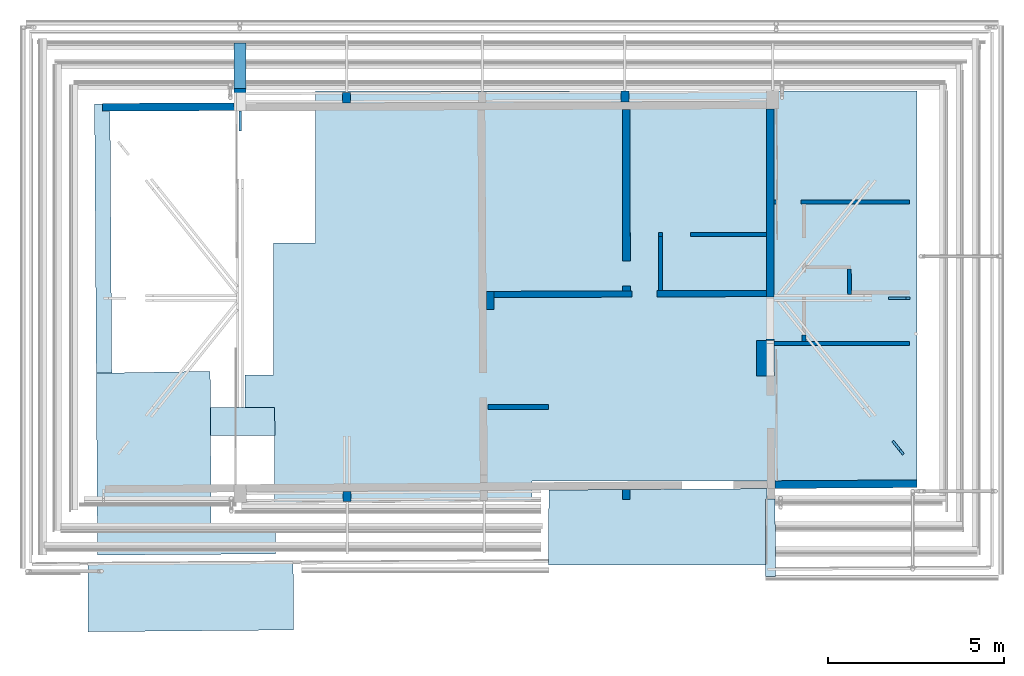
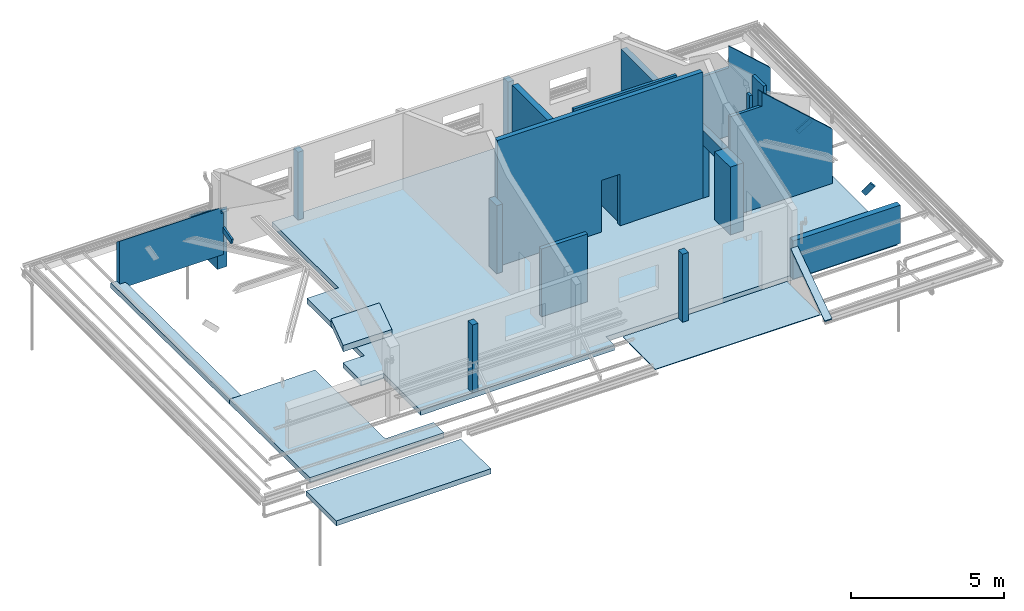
# One storey, part 7 of 15: 19 walls, 7 slabs, 3 beams, 6 openings, 1 element without a shape of its own.
"""IFC2X3 building model written with IfcOpenShell, lengths in centimetres."""

from ifc_helpers import new_model, entity, si_unit, converted_unit, direction, frame, frame_2d, origin, place, context, subcontext, project, spatial, polyline, rectangle, outline, extrude, clip, halfspace, bounded_halfspace, material, layer, layer_set, layer_usage, type_object, element, aggregate, save


model = new_model("IFC2X3")

# Units and contexts
model_context = context("Model", 3, precision=0.001, world=frame((0.0, 0.0, 13090.0)), true_north=direction((6.123233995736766e-17, 1.0)))
body_context = subcontext(model_context, "Body", "Model", "MODEL_VIEW")
ifc_project = project(units=[si_unit("LENGTHUNIT", "METRE", prefix="CENTI"), si_unit("AREAUNIT", "SQUARE_METRE"), si_unit("VOLUMEUNIT", "CUBIC_METRE"), converted_unit("PLANEANGLEUNIT", "DEGREE", entity("IfcPlaneAngleMeasure", 0.017453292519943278), si_unit("PLANEANGLEUNIT", "RADIAN"), dimensions=[0, 0, 0, 0, 0, 0, 0])], contexts=[model_context])

# Site, building, storey
site_placement = place(None, origin())
site = spatial("IfcSite", under=ifc_project, at=site_placement, Name="Default", CompositionType="ELEMENT")
building_placement = place(site_placement, origin())
building = spatial("IfcBuilding", under=site, at=building_placement, Name="e 39 logements et 22 maisons relais", CompositionType="ELEMENT")
storey_placement = place(building_placement, frame((0.0, 0.0, 340.0)))
storey = spatial("IfcBuildingStorey", under=building, at=storey_placement, Name="R+1", CompositionType="ELEMENT", Elevation=339.99999999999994)

# Beams
ifc_material_1 = material(Name="Bois - Bois de construction de dimensions courantes")
beam_type_1 = type_object("IfcBeamType", Name="Poutre - Bois de construction de dimensions courantes:70 220", PredefinedType="BEAM")
beam_1_placement = place(storey_placement, frame((-912.5294746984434, 290.23751580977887, 33.20291757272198), z_axis=(0.0, -0.2524683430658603, 0.9676051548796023), x_axis=(0.0, 0.9676051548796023, 0.2524683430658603)))
element("IfcBeam", 1, at=beam_1_placement, inside=storey, type_object=beam_type_1, material=ifc_material_1, Name="Poutre - Bois de construction de dimensions courantes:70 220", ObjectType="Poutre - Bois de construction de dimensions courantes:70 220", context=body_context, shape_type="Clipping", body=[
    clip(extrude(rectangle(XDim=22.000000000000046, YDim=7.000000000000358, at=frame_2d((0.0, 5.417888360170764e-14), x_axis=(1.0, 0.0))), frame((167.14753243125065, 0.0, -11.0), z_axis=(1.0, 0.0, 0.0), x_axis=(0.0, 0.0, -1.0)), (0.0, 0.0, 1.0), 59.086230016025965), halfspace(frame((218.56835276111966, 237.59999999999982, -29.378296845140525), z_axis=(0.9676051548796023, 0.0, -0.2524683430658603), x_axis=(0.0, -1.0, 0.0)), False)),
])
beam_type_2 = type_object("IfcBeamType", Name="Poutre - Bois de construction de dimensions courantes:70 200", PredefinedType="BEAM")
beam_2_placement = place(storey_placement, frame((899.3514562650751, -373.0568698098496, 54.634161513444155), z_axis=(0.9266041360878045, 0.1906840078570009, -0.32410551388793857), x_axis=(0.37603826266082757, -0.46986864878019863, 0.7986355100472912)))
element("IfcBeam", 2, at=beam_2_placement, inside=storey, type_object=beam_type_2, material=ifc_material_1, Name="Poutre - Bois de construction de dimensions courantes:70 200", ObjectType="Poutre - Bois de construction de dimensions courantes:70 200", context=body_context, shape_type="SweptSolid", body=[
    extrude(rectangle(XDim=20.000000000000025, YDim=7.000000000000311, at=frame_2d((5.906386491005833e-14, -9.769962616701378e-15), x_axis=(0.0, 1.0))), frame((121.39243448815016, 8.425956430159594, 5.38546731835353), z_axis=(1.0, 0.0, 0.0), x_axis=(0.0, -0.5385467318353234, 0.8425956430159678)), (0.0, 0.0, 1.0), 53.23702935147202),
])
beam_3_placement = place(storey_placement, frame((850.3282186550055, -22.897903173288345, 103.06490820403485), z_axis=(-0.5102264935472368, 0.0, 0.8600400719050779), x_axis=(0.8600400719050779, 0.0, 0.5102264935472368)))
element("IfcBeam", 3, at=beam_3_placement, inside=storey, type_object=beam_type_2, material=ifc_material_1, Name="Poutre - Bois de construction de dimensions courantes:70 200", ObjectType="Poutre - Bois de construction de dimensions courantes:70 200", context=body_context, shape_type="SweptSolid", body=[
    extrude(rectangle(XDim=20.000000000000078, YDim=7.0000000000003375, at=frame_2d((0.0, -1.7763568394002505e-15), x_axis=(1.0, 0.0))), frame((95.85083731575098, 0.0, -10.0), z_axis=(1.0, 0.0, 0.0), x_axis=(0.0, 0.0, -1.0)), (0.0, 0.0, 1.0), 58.56464128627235),
])

# Slabs
ifc_material_2 = material(Name="Béton - Béton coulé sur place")
ifc_layer_1 = layer(ifc_material_2, 20.0)
ifc_layer_set_1 = layer_set([ifc_layer_1], Name="Sol:Dalle BA - 20")
ifc_layer_usage_1 = layer_usage(ifc_layer_set_1, "AXIS3", "POSITIVE", 0.0)
slab_type_1 = type_object("IfcSlabType", Name="Sol:Dalle BA - 20", PredefinedType="FLOOR", material=ifc_layer_set_1)
slab_1_placement = place(storey_placement, frame((-1321.4745272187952, -754.3223593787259, -20.0)))
element("IfcSlab", 4, at=slab_1_placement, inside=storey, type_object=slab_type_1, material=ifc_layer_usage_1, Name="Sol:Dalle BA - 20", ObjectType="Sol:Dalle BA - 20", PredefinedType="FLOOR", context=body_context, shape_type="SweptSolid", body=[
    extrude(outline(polyline([(544.2717730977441, 227.87342398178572), (544.2717730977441, 660.1651733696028), (-1167.9405893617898, 660.1651733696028), (-1167.9405893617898, -448.8313416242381), (-71.26773760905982, -448.8313416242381), (-71.63161573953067, -504.3201692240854), (660.4477145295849, -509.4641144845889), (660.4477145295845, -267.4406105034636), (744.5446616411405, -267.4406105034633), (744.5446616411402, -147.57597303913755), (663.3737758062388, -147.5759730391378), (663.3737758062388, 227.87342398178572), (544.2717730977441, 227.87342398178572)])), frame((1167.9405893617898, 660.1651733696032, 20.0), z_axis=(0.0, 0.0, -1.0), x_axis=(-1.0, 0.0, 0.0)), (0.0, 0.0, 1.0), 20.0),
])
slab_2_placement = place(storey_placement, frame((-1321.4745272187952, -754.3223593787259, -20.0)))
element("IfcSlab", 5, at=slab_2_placement, inside=storey, type_object=slab_type_1, material=ifc_layer_usage_1, Name="Sol:Dalle BA - 20:2", ObjectType="Sol:Dalle BA - 20", PredefinedType="FLOOR", context=body_context, shape_type="SweptSolid", body=[
    extrude(outline(polyline([(1164.547268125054, -660.1651733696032), (1167.9405893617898, -142.70781243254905), (843.8692593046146, -137.25645953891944), (840.8983128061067, -590.3046761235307), (657.894139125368, -589.104592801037), (657.8941391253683, -656.8427028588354), (1164.547268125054, -660.1651733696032)])), frame((1167.9405893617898, 660.1651733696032, 20.0), z_axis=(0.0, 0.0, -1.0), x_axis=(-1.0, 0.0, 0.0)), (0.0, 0.0, 1.0), 20.0),
])
ifc_layer_usage_2 = layer_usage(ifc_layer_set_1, "AXIS3", "POSITIVE", 0.0)
slab_3_placement = place(storey_placement, origin())
element("IfcSlab", 6, at=slab_3_placement, inside=storey, type_object=slab_type_1, material=ifc_layer_usage_2, Name="Sol:Dalle BA - 20", ObjectType="Sol:Dalle BA - 20", PredefinedType="FLOOR", context=body_context, shape_type="SweptSolid", body=[
    extrude(outline(polyline([(-100.2737257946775, -292.0021601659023), (95.7873254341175, -292.0021601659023), (99.61285331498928, 291.36364086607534), (-95.1264529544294, 292.64067946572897), (-100.2737257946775, -292.0021601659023)])), frame((-1052.648526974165, -872.284392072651, -30.0), z_axis=(0.0, 0.0, -1.0), x_axis=(0.0, 1.0, 0.0)), (0.0, 0.0, 1.0), 20.0),
])
ifc_layer_usage_3 = layer_usage(ifc_layer_set_1, "AXIS3", "POSITIVE", 0.0)
slab_4_placement = place(storey_placement, origin())
element("IfcSlab", 7, at=slab_4_placement, inside=storey, type_object=slab_type_1, material=ifc_layer_usage_3, Name="Sol:Dalle BA - 20", ObjectType="Sol:Dalle BA - 20", PredefinedType="FLOOR", context=body_context, shape_type="SweptSolid", body=[
    extrude(outline(polyline([(-25.302647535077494, -503.55813241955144), (18.69829852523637, -503.55813241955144), (23.722533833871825, 262.6020281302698), (1.7227281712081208, 262.7037969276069), (1.579780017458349, 240.90521989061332), (-20.42069301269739, 240.90521989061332), (-25.302647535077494, -503.55813241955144)])), frame((-1302.7786322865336, 267.05966482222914, 0.0), z_axis=(0.0, 0.0, -1.0), x_axis=(-1.0, 0.0, 0.0)), (0.0, 0.0, 1.0), 20.0),
])
ifc_material_3 = material(Name="Bois - GL24c")
ifc_layer_2 = layer(ifc_material_3, 3.0)
ifc_layer_set_2 = layer_set([ifc_layer_2], Name="Sol:PLATELAGE")
ifc_layer_usage_4 = layer_usage(ifc_layer_set_2, "AXIS3", "POSITIVE", 0.0)
slab_type_2 = type_object("IfcSlabType", Name="Sol:PLATELAGE", PredefinedType="FLOOR", material=ifc_layer_set_2)
slab_5_placement = place(storey_placement, origin())
element("IfcSlab", 8, at=slab_5_placement, inside=storey, type_object=slab_type_2, material=ifc_layer_usage_4, Name="Sol:PLATELAGE", ObjectType="Sol:PLATELAGE", PredefinedType="FLOOR", context=body_context, shape_type="SweptSolid", body=[
    extrude(outline(polyline([(-310.7337306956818, -107.99855551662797), (311.56814091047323, -107.99855551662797), (309.8993204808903, 105.96359817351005), (-310.7337306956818, 110.03351285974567), (-310.7337306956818, -107.99855551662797)])), frame((276.32712453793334, -675.1597031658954, 0.0), z_axis=(0.0, 0.0, -1.0), x_axis=(-1.0, 0.0, 0.0)), (0.0, 0.0, 1.0), 3.0000000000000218),
])
ifc_layer_3 = layer(ifc_material_2, 25.0)
ifc_layer_set_3 = layer_set([ifc_layer_3], Name="Sol:Dalle BA - 25")
ifc_layer_usage_5 = layer_usage(ifc_layer_set_3, "AXIS3", "POSITIVE", 0.0)
slab_type_3 = type_object("IfcSlabType", Name="Sol:Dalle BA - 25", PredefinedType="FLOOR", material=ifc_layer_set_3)
slab_6_placement = place(storey_placement, origin())
element("IfcSlab", 9, at=slab_6_placement, inside=storey, type_object=slab_type_3, material=ifc_layer_usage_5, Name="Sol:Dalle BA - 25", ObjectType="Sol:Dalle BA - 25", PredefinedType="FLOOR", context=body_context, shape_type="Clipping", body=[
    clip(clip(extrude(outline(polyline([(-49.28274534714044, -91.4153522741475), (49.28274534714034, -91.4153522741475), (49.28274534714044, 91.15248613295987), (-49.28274534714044, 91.67821841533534), (-49.28274534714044, -91.4153522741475)])), frame((-905.1055098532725, -374.56360973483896, 236.26109783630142), z_axis=(0.0, 0.5817435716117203, -0.8133722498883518), x_axis=(0.0, 0.8133722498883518, 0.5817435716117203)), (-0.5817435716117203, 0.0, 0.8133722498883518), 30.736234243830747), halfspace(frame((-905.1055098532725, -374.56360973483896, 211.26109783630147), z_axis=(0.0, 0.5817435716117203, -0.8133722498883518), x_axis=(0.0, -0.8133722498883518, -0.5817435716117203)), False)), halfspace(frame((-905.1055098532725, -374.56360973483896, 236.26109783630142), z_axis=(0.0, -0.5817435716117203, 0.8133722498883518), x_axis=(0.0, -0.8133722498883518, -0.5817435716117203)), False)),
])

# Roof, slab
ifc_material_4 = material(Name="tole")
ifc_layer_4 = layer(ifc_material_4, 4.0)
ifc_layer_set_4 = layer_set([ifc_layer_4], Name="Toit de base:Tôle 1000P")
roof_placement = place(storey_placement, frame((583.3958003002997, -815.9558432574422, -9.000536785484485)))
roof = element("IfcRoof", 10, at=roof_placement, inside=storey, material=ifc_layer_set_4, Name="Toit de base:Tôle 1000P", ObjectType="Toit de base:Tôle 1000P", ShapeType="NOTDEFINED")
slab_type_4 = type_object("IfcSlabType", Name="Toit de base:Tôle 1000P", PredefinedType="ROOF")
slab_7_placement = place(roof_placement, origin())
slab_7 = element("IfcSlab", 11, at=slab_7_placement, type_object=slab_type_4, material=ifc_layer_set_4, Name="Toit de base:Tôle 1000P", ObjectType="Toit de base:Tôle 1000P", PredefinedType="ROOF", context=body_context, shape_type="SweptSolid", body=[
    extrude(outline(polyline([(14.796110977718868, -135.15464796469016), (13.342661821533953, 135.30586514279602), (-13.34269180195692, 135.16245860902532), (-13.34268195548, -135.30211858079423), (14.796110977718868, -135.15464796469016)])), frame((13.342597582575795, 110.9087400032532, 77.50000000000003), z_axis=(0.0037580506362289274, -0.5730760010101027, 0.8194936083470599), x_axis=(0.9999929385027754, 0.0021536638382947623, -0.0030797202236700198)), (-0.0030797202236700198, 0.5730800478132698, 0.8194936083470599), 4.000000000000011),
])
aggregate(roof, [slab_7])

# Walls
ifc_layer_5 = layer(ifc_material_2, 22.0)
ifc_layer_set_5 = layer_set([ifc_layer_5], Name="Mur de base:BA - 22cm")
ifc_layer_usage_6 = layer_usage(ifc_layer_set_5, "AXIS2", "POSITIVE", -11.0)
wall_type_1 = type_object("IfcWallType", Name="Mur de base:BA - 22cm", PredefinedType="STANDARD", material=ifc_layer_set_5)
wall_1_placement = place(storey_placement, frame((-609.2819705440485, 561.4383854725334, 0.0), z_axis=(0.0, 0.0, 1.0), x_axis=(0.0, -1.0, 0.0)))
element("IfcWallStandardCase", 12, at=wall_1_placement, inside=storey, type_object=wall_type_1, material=ifc_layer_usage_6, Name="Mur de base:BA - 22cm", ObjectType="Mur de base:BA - 22cm", context=body_context, shape_type="SweptSolid", body=[
    extrude(outline(polyline([(29.092909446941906, -11.0), (29.007477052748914, 11.0), (0.0, 11.0), (0.0, -11.0), (29.092909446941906, -11.0)])), origin(), (0.0, 0.0, 1.0), 269.9999999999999),
])
ifc_layer_usage_7 = layer_usage(ifc_layer_set_5, "AXIS2", "POSITIVE", -11.0)
wall_2_placement = place(storey_placement, frame((182.75216677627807, 566.00798736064, 0.0), z_axis=(0.0, 0.0, 1.0), x_axis=(0.0, -1.0, 0.0)))
element("IfcWallStandardCase", 13, at=wall_2_placement, inside=storey, type_object=wall_type_1, material=ifc_layer_usage_7, Name="Mur de base:BA - 22cm", ObjectType="Mur de base:BA - 22cm", context=body_context, shape_type="SweptSolid", body=[
    extrude(outline(polyline([(30.58681257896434, -11.0), (30.501380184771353, 11.0), (0.0, 11.0), (0.0, -11.0), (30.58681257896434, -11.0)])), origin(), (0.0, 0.0, 1.0), 269.9999999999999),
])

# Wall, opening
ifc_layer_usage_8 = layer_usage(ifc_layer_set_5, "AXIS2", "NEGATIVE", 11.0)
wall_3_placement = place(storey_placement, frame((186.24792464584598, 513.4990535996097, 0.0), z_axis=(0.0, 0.0, 1.0), x_axis=(0.0019056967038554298, -0.9999981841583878, 0.0)))
wall_3 = element("IfcWallStandardCase", 14, at=wall_3_placement, inside=storey, type_object=wall_type_1, material=ifc_layer_usage_8, Name="Mur de base:BA - 22cm", ObjectType="Mur de base:BA - 22cm", context=body_context, shape_type="SweptSolid", body=[
    extrude(outline(polyline([(0.043506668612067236, -11.0), (515.9129677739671, -11.0), (515.8659593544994, 11.0), (0.0, 11.0), (0.043506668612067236, -11.0)])), origin(), (0.0, 0.0, 1.0), 269.9999999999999),
])
opening_1_placement = place(wall_3_placement, frame((513.1431891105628, -187.22615990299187, 0.0), z_axis=(0.0, 0.0, 1.0), x_axis=(0.0019056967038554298, 0.9999981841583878, 0.0)))
element("IfcOpeningElement", 15, at=opening_1_placement, cuts=wall_3, Name="Mur de base:BA - 22cm", ObjectType="Opening", context=body_context, shape_type="SweptSolid", body=[
    extrude(rectangle(XDim=205.0, YDim=69.99999999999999, at=frame_2d((0.0, 2.842170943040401e-14), x_axis=(0.0, 1.0))), frame((23.737619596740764, 46.483477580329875, 102.50000000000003), z_axis=(0.9999981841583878, 0.0019056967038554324, 0.0), x_axis=(0.0019056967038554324, -0.9999981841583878, 0.0)), (0.0, 0.0, 1.0), 304.8),
])

# Walls
ifc_layer_usage_9 = layer_usage(ifc_layer_set_5, "AXIS2", "NEGATIVE", 11.0)
wall_4_placement = place(storey_placement, frame((186.86823692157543, -596.7016349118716, 0.0), z_axis=(0.0, 0.0, 1.0), x_axis=(0.0, 1.0, 0.0)))
element("IfcWallStandardCase", 16, at=wall_4_placement, inside=storey, type_object=wall_type_1, material=ifc_layer_usage_9, Name="Mur de base:BA - 22cm", ObjectType="Mur de base:BA - 22cm", context=body_context, shape_type="SweptSolid", body=[
    extrude(outline(polyline([(29.055696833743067, -11.0), (28.905679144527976, 11.0), (0.0, 11.0), (0.0, -11.0), (29.055696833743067, -11.0)])), origin(), (0.0, 0.0, 1.0), 269.9999999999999),
])
ifc_layer_usage_10 = layer_usage(ifc_layer_set_5, "AXIS2", "NEGATIVE", 11.0)
wall_5_placement = place(storey_placement, frame((-607.8132875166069, -602.1205570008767, 0.0), z_axis=(0.0, 0.0, 1.0), x_axis=(0.0, 1.0, 0.0)))
element("IfcWallStandardCase", 17, at=wall_5_placement, inside=storey, type_object=wall_type_1, material=ifc_layer_usage_10, Name="Mur de base:BA - 22cm", ObjectType="Mur de base:BA - 22cm", context=body_context, shape_type="SweptSolid", body=[
    extrude(outline(polyline([(29.055696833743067, -11.0), (28.905679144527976, 11.0), (0.0, 11.0), (0.0, -11.0), (29.055696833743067, -11.0)])), origin(), (0.0, 0.0, 1.0), 269.9999999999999),
])
ifc_layer_usage_11 = layer_usage(ifc_layer_set_5, "AXIS2", "POSITIVE", -11.0)
wall_6_placement = place(storey_placement, frame((-200.16712289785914, -55.0003992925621, 0.0), z_axis=(0.0, 0.0, 1.0), x_axis=(0.0, 1.0, 0.0)))
element("IfcWallStandardCase", 18, at=wall_6_placement, inside=storey, type_object=wall_type_1, material=ifc_layer_usage_11, Name="Mur de base:BA - 22cm", ObjectType="Mur de base:BA - 22cm", context=body_context, shape_type="SweptSolid", body=[
    extrude(outline(polyline([(51.089350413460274, -11.0), (51.000416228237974, 11.0), (0.0, 11.0), (0.0, -11.0), (33.08920334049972, -11.0), (51.089350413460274, -11.0)])), origin(), (0.0, 0.0, 1.0), 269.9999999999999),
])

# Wall, opening
ifc_layer_usage_12 = layer_usage(ifc_layer_set_5, "AXIS2", "NEGATIVE", 11.0)
wall_7_placement = place(storey_placement, frame((596.6901005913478, 515.1138826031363, 0.0), z_axis=(0.0, 0.0, 1.0), x_axis=(0.0, -1.0, 0.0)))
wall_7 = element("IfcWallStandardCase", 19, at=wall_7_placement, inside=storey, type_object=wall_type_1, material=ifc_layer_usage_12, Name="Mur de base:BA - 22cm", ObjectType="Mur de base:BA - 22cm", context=body_context, shape_type="SweptSolid", body=[
    extrude(outline(polyline([(0.08543239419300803, -11.0), (658.4674823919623, -11.0), (658.4674823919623, 11.0), (269.898803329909, 11.0), (258.89880332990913, 11.0), (0.0, 11.0), (0.08543239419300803, -11.0)])), origin(), (0.0, 0.0, 1.0), 269.9999999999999),
])
opening_2_placement = place(wall_7_placement, frame((515.1138826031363, -596.6901005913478, 0.0), z_axis=(0.0, 0.0, 1.0), x_axis=(0.0, 1.0, 0.0)))
element("IfcOpeningElement", 20, at=opening_2_placement, cuts=wall_7, Name="Mur de base:BA - 22cm", ObjectType="Opening", context=body_context, shape_type="SweptSolid", body=[
    extrude(rectangle(XDim=210.0, YDim=119.99999999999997, at=frame_2d((2.1316282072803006e-14, 3.552713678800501e-15), x_axis=(1.0, 0.0))), frame((455.2901005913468, -79.75359978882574, 105.0), z_axis=(1.0, 0.0, 0.0), x_axis=(0.0, 0.0, -1.0)), (0.0, 0.0, 1.0), 304.8),
])

# Walls
ifc_layer_usage_13 = layer_usage(ifc_layer_set_5, "AXIS2", "POSITIVE", -11.0)
wall_8_placement = place(storey_placement, frame((609.8176183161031, -553.97672215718, 0.0), z_axis=(0.0, 0.0, 1.0), x_axis=(0.9999784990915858, 0.006557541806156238, 0.0)))
element("IfcWallStandardCase", 21, at=wall_8_placement, inside=storey, type_object=wall_type_1, material=ifc_layer_usage_13, Name="Mur de base:BA - 22cm", ObjectType="Mur de base:BA - 22cm", context=body_context, shape_type="SweptSolid", body=[
    extrude(outline(polyline([(404.52559789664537, -11.0), (404.66986691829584, 11.0), (382.6693938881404, 11.0), (0.0, 11.0), (0.0, -10.859886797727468), (0.0, -11.0), (404.52559789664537, -11.0)])), origin(), (0.0, 0.0, 1.0), 151.81373438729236),
])
ifc_layer_usage_14 = layer_usage(ifc_layer_set_5, "AXIS2", "POSITIVE", -11.0)
wall_9_placement = place(storey_placement, frame((-1304.4665688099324, 519.9719329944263, -20.0), z_axis=(0.0, 0.0, 1.0), x_axis=(0.9999924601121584, 0.0038832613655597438, 0.0)))
element("IfcWallStandardCase", 22, at=wall_9_placement, inside=storey, type_object=wall_type_1, material=ifc_layer_usage_14, Name="Mur de base:BA - 22cm", ObjectType="Mur de base:BA - 22cm", context=body_context, shape_type="Clipping", body=[
    clip(clip(extrude(outline(polyline([(391.9400492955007, -11.0), (391.9400492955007, 11.0), (0.0, 11.0), (0.05883512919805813, -11.0), (391.9400492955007, -11.0)])), origin(), (0.0, 0.0, 1.0), 189.56537464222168), bounded_halfspace(frame((0.05883512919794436, -11.0, 189.56537464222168), z_axis=(0.0022527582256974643, 0.5801157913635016, 0.8145309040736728), x_axis=(-0.9999924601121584, 0.003883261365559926, 0.0)), False, frame((0.05883512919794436, -11.0, 189.56537464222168)), polyline([(0.0, 0.0), (381.3384187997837, 0.0), (381.4238511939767, 22.0), (-0.0588351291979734, 22.0), (0.0, 0.0)]))), bounded_halfspace(frame((381.3972539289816, -11.0, 165.37386426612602), z_axis=(0.0, 0.0, 1.0), x_axis=(0.0, 1.0, 0.0)), False, frame((381.3972539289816, -11.0, 165.37386426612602)), polyline([(0.0, 0.0), (10.542795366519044, 0.0), (10.542795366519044, 22.0), (0.08543239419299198, 22.0), (0.0, 0.0)]))),
])

# Wall, openings
ifc_layer_6 = layer(ifc_material_2, 11.0)
ifc_layer_set_6 = layer_set([ifc_layer_6], Name="Mur de base:cloison 11cm")
ifc_layer_usage_15 = layer_usage(ifc_layer_set_6, "AXIS2", "POSITIVE", -5.5)
wall_type_2 = type_object("IfcWallType", Name="Mur de base:cloison 11cm", PredefinedType="STANDARD", material=ifc_layer_set_6)
wall_10_placement = place(storey_placement, frame((585.6901005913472, 157.53903926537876, 0.0), z_axis=(0.0, 0.0, 1.0), x_axis=(-1.0, 0.0, 0.0)))
wall_10 = element("IfcWallStandardCase", 23, at=wall_10_placement, inside=storey, type_object=wall_type_2, material=ifc_layer_usage_15, Name="Mur de base:cloison 11cm", ObjectType="Mur de base:cloison 11cm", context=body_context, shape_type="SweptSolid", body=[
    extrude(outline(polyline([(0.0, -5.499999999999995), (387.7742842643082, -5.499999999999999), (387.7533215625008, 5.49999999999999), (0.0, 5.499999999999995), (0.0, -5.499999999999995)])), origin(), (0.0, 0.0, 1.0), 385.9972760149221),
])
opening_3_placement = place(wall_10_placement, frame((585.6901005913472, 157.53903926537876, 0.0), z_axis=(0.0, 0.0, 1.0), x_axis=(-1.0, 0.0, 0.0)))
element("IfcOpeningElement", 24, at=opening_3_placement, cuts=wall_10, Name="Mur de base:cloison 11cm", ObjectType="Opening", context=body_context, shape_type="SweptSolid", body=[
    extrude(rectangle(XDim=209.99999999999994, YDim=79.99999999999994, at=frame_2d((-2.4868995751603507e-14, 2.1316282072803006e-14), x_axis=(0.0, 1.0))), frame((329.8802588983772, 315.43903926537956, 105.0), z_axis=(0.0, -1.0, 0.0), x_axis=(-1.0, 0.0, 0.0)), (0.0, 0.0, 1.0), 304.80000000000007),
])
opening_4_placement = place(wall_10_placement, frame((585.6901005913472, 157.53903926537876, 0.0), z_axis=(0.0, 0.0, 1.0), x_axis=(-1.0, 0.0, 0.0)))
element("IfcOpeningElement", 25, at=opening_4_placement, cuts=wall_10, Name="Mur de base:cloison 11cm", ObjectType="Opening", context=body_context, shape_type="SweptSolid", body=[
    extrude(rectangle(XDim=209.99999999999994, YDim=79.99999999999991, at=frame_2d((-3.907985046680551e-14, 2.1316282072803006e-14), x_axis=(0.0, 1.0))), frame((238.38025889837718, 315.4390392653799, 105.0), z_axis=(0.0, -1.0, 0.0), x_axis=(-1.0, 0.0, 0.0)), (0.0, 0.0, 1.0), 304.8),
])

# Walls
ifc_layer_usage_16 = layer_usage(ifc_layer_set_6, "AXIS2", "POSITIVE", -5.5)
wall_11_placement = place(storey_placement, frame((284.1802588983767, 152.03903926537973, 0.0), z_axis=(0.0, 0.0, 1.0), x_axis=(0.0, -1.0, 0.0)))
element("IfcWallStandardCase", 26, at=wall_11_placement, inside=storey, type_object=wall_type_2, material=ifc_layer_usage_16, Name="Mur de base:cloison 11cm", ObjectType="Mur de base:cloison 11cm", context=body_context, shape_type="SweptSolid", body=[
    extrude(outline(polyline([(154.05883243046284, -5.499999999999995), (154.0143653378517, 5.499999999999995), (0.0, 5.499999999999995), (0.0, -5.499999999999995), (154.05883243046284, -5.499999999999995)])), origin(), (0.0, 0.0, 1.0), 269.9999999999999),
])
ifc_layer_usage_17 = layer_usage(ifc_layer_set_6, "AXIS2", "POSITIVE", -5.5)
wall_12_placement = place(storey_placement, frame((607.1481969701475, -152.4089473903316, 0.0)))
element("IfcWallStandardCase", 27, at=wall_12_placement, inside=storey, type_object=wall_type_2, material=ifc_layer_usage_17, Name="Mur de base:cloison 11cm", ObjectType="Mur de base:cloison 11cm", context=body_context, shape_type="Clipping", body=[
    clip(clip(extrude(outline(polyline([(385.25845453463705, -5.500000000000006), (385.25845453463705, 5.499999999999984), (90.7662407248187, 5.500000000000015), (79.7662407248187, 5.500000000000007), (0.0, 5.499999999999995), (0.07213451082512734, -5.499999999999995), (385.25845453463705, -5.500000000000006)])), origin(), (0.0, 0.0, 1.0), 463.28141701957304), bounded_halfspace(frame((120.01928581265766, -5.499999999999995, 455.3918916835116), z_axis=(0.6684036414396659, 0.0014533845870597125, 0.7437973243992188), x_axis=(0.5451818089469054, -0.681217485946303, -0.48858932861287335)), False, frame((120.01928581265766, -5.499999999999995, 455.3918916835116)), polyline([(0.0, 0.0), (265.23916872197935, 0.0), (265.23916872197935, 11.0), (-8.80335578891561, 11.0), (0.0, 0.0)]))), bounded_halfspace(frame((0.07213451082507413, -5.499999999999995, 400.0), z_axis=(0.0, 0.0, 1.0), x_axis=(0.0, 1.0, 0.0)), False, frame((0.07213451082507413, -5.499999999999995, 400.0)), polyline([(0.0, 0.0), (119.94715130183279, 0.0), (111.14379551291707, 11.0), (-0.07213451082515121, 11.0), (0.0, 0.0)]))),
])
ifc_layer_usage_18 = layer_usage(ifc_layer_set_6, "AXIS2", "NEGATIVE", 5.5)
wall_13_placement = place(storey_placement, frame((692.4144376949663, -146.90894739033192, 0.0), z_axis=(0.0, 0.0, 1.0), x_axis=(0.0, 1.0, 0.0)))
element("IfcWallStandardCase", 28, at=wall_13_placement, inside=storey, type_object=wall_type_2, material=ifc_layer_usage_18, Name="Mur de base:cloison 11cm", ObjectType="Mur de base:cloison 11cm", context=body_context, shape_type="SweptSolid", body=[
    extrude(rectangle(XDim=19.500000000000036, YDim=11.000000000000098, at=frame_2d((9.750000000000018, 1.5987211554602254e-14), x_axis=(-1.0, 0.0))), origin(), (0.0, 0.0, 1.0), 448.72677737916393),
])

# Wall, opening
ifc_layer_usage_19 = layer_usage(ifc_layer_set_6, "AXIS2", "NEGATIVE", 5.5)
wall_14_placement = place(storey_placement, frame((607.6901005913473, 250.7150792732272, 0.0)))
wall_14 = element("IfcWallStandardCase", 29, at=wall_14_placement, inside=storey, type_object=wall_type_2, material=ifc_layer_usage_19, Name="Mur de base:cloison 11cm", ObjectType="Mur de base:cloison 11cm", context=body_context, shape_type="Clipping", body=[
    clip(clip(extrude(rectangle(XDim=384.71655091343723, YDim=10.99999999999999, at=frame_2d((192.35827545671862, 7.105427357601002e-15), x_axis=(-1.0, 0.0))), origin(), (0.0, 0.0, 1.0), 358.73914354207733), bounded_halfspace(frame((226.15567775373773, -5.4999999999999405, 358.73914354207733), z_axis=(0.6684036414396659, 0.0014533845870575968, 0.7437973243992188), x_axis=(0.5451818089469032, -0.6812174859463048, -0.48858932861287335)), False, frame((226.15567775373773, -5.4999999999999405, 358.73914354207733)), polyline([(0.0, 0.0), (158.5608731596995, 0.0), (158.5608731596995, 11.0), (8.880958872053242, 11.0), (0.0, 0.0)]))), bounded_halfspace(frame((0.0, 5.499999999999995, 270.0), z_axis=(0.0, 0.0, 1.0), x_axis=(0.0, 1.0, 0.0)), False, frame((0.0, 5.499999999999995, 270.0)), polyline([(0.0, 0.0), (0.0, -11.0), (226.15567775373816, -11.0), (235.03663662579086, 0.0), (0.0, 0.0)]))),
])
opening_5_placement = place(wall_14_placement, frame((-607.6901005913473, -250.7150792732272, 0.0)))
element("IfcOpeningElement", 30, at=opening_5_placement, cuts=wall_14, Name="Mur de base:cloison 11cm", ObjectType="Opening", context=body_context, shape_type="SweptSolid", body=[
    extrude(rectangle(XDim=205.00000000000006, YDim=70.0, at=frame_2d((2.842170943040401e-14, 5.3290705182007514e-14), x_axis=(1.0, 0.0))), frame((648.7849858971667, 103.81507927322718, 102.50000000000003), z_axis=(0.0, 1.0, 0.0), x_axis=(0.0, 0.0, -1.0)), (0.0, 0.0, 1.0), 304.8),
])

# Walls
ifc_layer_usage_20 = layer_usage(ifc_layer_set_6, "AXIS2", "NEGATIVE", 5.5)
wall_15_placement = place(storey_placement, frame((821.1195223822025, 59.32046416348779, 0.0), z_axis=(0.0, 0.0, 1.0), x_axis=(0.017968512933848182, -0.9998385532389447, 0.0)))
element("IfcWallStandardCase", 31, at=wall_15_placement, inside=storey, type_object=wall_type_2, material=ifc_layer_usage_20, Name="Mur de base:cloison 11cm", ObjectType="Mur de base:cloison 11cm", context=body_context, shape_type="SweptSolid", body=[
    extrude(outline(polyline([(71.6311051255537, -5.500000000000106), (71.82879068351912, 5.499999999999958), (60.82701448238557, 5.499999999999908), (0.19768555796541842, 5.4999999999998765), (0.0, -5.500000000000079), (71.6311051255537, -5.500000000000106)])), origin(), (0.0, 0.0, 1.0), 360.2958763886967),
])
ifc_layer_7 = layer(ifc_material_2, 15.0)
ifc_layer_set_7 = layer_set([ifc_layer_7], Name="Mur de base:BA - 15cm")
ifc_layer_usage_21 = layer_usage(ifc_layer_set_7, "AXIS2", "POSITIVE", -7.5)
wall_type_3 = type_object("IfcWallType", Name="Mur de base:BA - 15cm", PredefinedType="STANDARD", material=ifc_layer_set_7)
wall_16_placement = place(storey_placement, frame((-207.39334622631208, -332.9821719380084, 0.0)))
element("IfcWallStandardCase", 32, at=wall_16_placement, inside=storey, type_object=wall_type_3, material=ifc_layer_usage_21, Name="Mur de base:BA - 15cm", ObjectType="Mur de base:BA - 15cm", context=body_context, shape_type="SweptSolid", body=[
    extrude(rectangle(XDim=172.9, YDim=15.000000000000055, at=frame_2d((86.45, 0.0), x_axis=(-1.0, 0.0))), origin(), (0.0, 0.0, 1.0), 269.9999999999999),
])
ifc_layer_8 = layer(ifc_material_2, 35.0)
ifc_layer_set_8 = layer_set([ifc_layer_8], Name="Mur de base:BA - 35")
ifc_layer_usage_22 = layer_usage(ifc_layer_set_8, "AXIS2", "POSITIVE", -17.5)
wall_type_4 = type_object("IfcWallType", Name="Mur de base:BA - 35", PredefinedType="STANDARD", material=ifc_layer_set_8)
wall_17_placement = place(storey_placement, frame((-912.5294746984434, 702.5252742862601, -80.49999034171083), z_axis=(0.0, 0.0, 1.0), x_axis=(0.0, -1.0, 0.0)))
element("IfcWallStandardCase", 33, at=wall_17_placement, inside=storey, type_object=wall_type_4, material=ifc_layer_usage_22, Name="Mur de base:BA - 35", ObjectType="Mur de base:BA - 35", context=body_context, shape_type="Clipping", body=[
    clip(extrude(rectangle(XDim=182.31476319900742, YDim=35.00000000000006, at=frame_2d((91.15738159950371, 2.6645352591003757e-14), x_axis=(-1.0, 0.0))), origin(), (0.0, 0.0, 1.0), 238.4930883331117), halfspace(frame((0.0, -17.499999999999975, 107.47119941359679), z_axis=(-0.5835865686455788, 0.0, 0.8120509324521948), x_axis=(0.0, 1.0, 0.0)), False)),
])
ifc_layer_9 = layer(ifc_material_2, 50.0)
ifc_layer_set_9 = layer_set([ifc_layer_9], Name="Mur de base:BA - 50cm 2")
ifc_layer_usage_23 = layer_usage(ifc_layer_set_9, "AXIS2", "NEGATIVE", 25.0)
wall_type_5 = type_object("IfcWallType", Name="Mur de base:BA - 50cm 2", PredefinedType="STANDARD", material=ifc_layer_set_9)
wall_18_placement = place(storey_placement, frame((582.1249709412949, -143.44911328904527, 0.0), z_axis=(0.0, 0.0, 1.0), x_axis=(0.006557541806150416, -0.9999784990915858, 0.0)))
element("IfcWallStandardCase", 34, at=wall_18_placement, inside=storey, type_object=wall_type_5, material=ifc_layer_usage_23, Name="Mur de base:BA - 50cm 2", ObjectType="Mur de base:BA - 50cm 2", context=body_context, shape_type="SweptSolid", body=[
    extrude(rectangle(XDim=101.49999999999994, YDim=49.999999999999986, at=frame_2d((50.74999999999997, -1.5987211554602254e-14), x_axis=(-1.0, 0.0))), origin(), (0.0, 0.0, 1.0), 269.9999999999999),
])

# Wall, opening
ifc_layer_10 = layer(ifc_material_2, 18.0)
ifc_layer_set_10 = layer_set([ifc_layer_10], Name="Mur de base:BA - 18cm")
ifc_layer_usage_24 = layer_usage(ifc_layer_set_10, "AXIS2", "POSITIVE", -9.0)
wall_type_6 = type_object("IfcWallType", Name="Mur de base:BA - 18cm", PredefinedType="STANDARD", material=ifc_layer_set_10)
wall_19_placement = place(storey_placement, frame((-189.2035047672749, -12.911269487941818, 0.0), z_axis=(0.0, 0.0, 1.0), x_axis=(0.9999918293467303, 0.004042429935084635, 0.0)))
wall_19 = element("IfcWallStandardCase", 35, at=wall_19_placement, inside=storey, type_object=wall_type_6, material=ifc_layer_usage_24, Name="Mur de base:BA - 18cm", ObjectType="Mur de base:BA - 18cm", context=body_context, shape_type="SweptSolid", body=[
    extrude(outline(polyline([(0.0, -9.0), (774.8635546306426, -9.0), (774.9363189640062, 9.0), (0.07276433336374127, 9.0), (0.0, -9.0)])), origin(), (0.0, 0.0, 1.0), 501.81697291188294),
])
opening_6_placement = place(wall_19_placement, frame((189.25415175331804, 12.1463220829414, 0.0), z_axis=(0.0, 0.0, 1.0), x_axis=(0.9999918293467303, -0.004042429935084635, 0.0)))
element("IfcOpeningElement", 36, at=opening_6_placement, cuts=wall_19, Name="Mur de base:BA - 18cm", ObjectType="Opening", context=body_context, shape_type="SweptSolid", body=[
    extrude(rectangle(XDim=205.00000000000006, YDim=69.99999999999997, at=frame_2d((2.842170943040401e-14, 0.0), x_axis=(1.0, 0.0))), frame((239.0720690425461, -154.5811530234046, 102.50000000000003), z_axis=(-0.004042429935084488, 0.9999918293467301, 0.0), x_axis=(0.0, 0.0, -1.0)), (0.0, 0.0, 1.0), 304.8),
])

save(model, "model.ifc")
